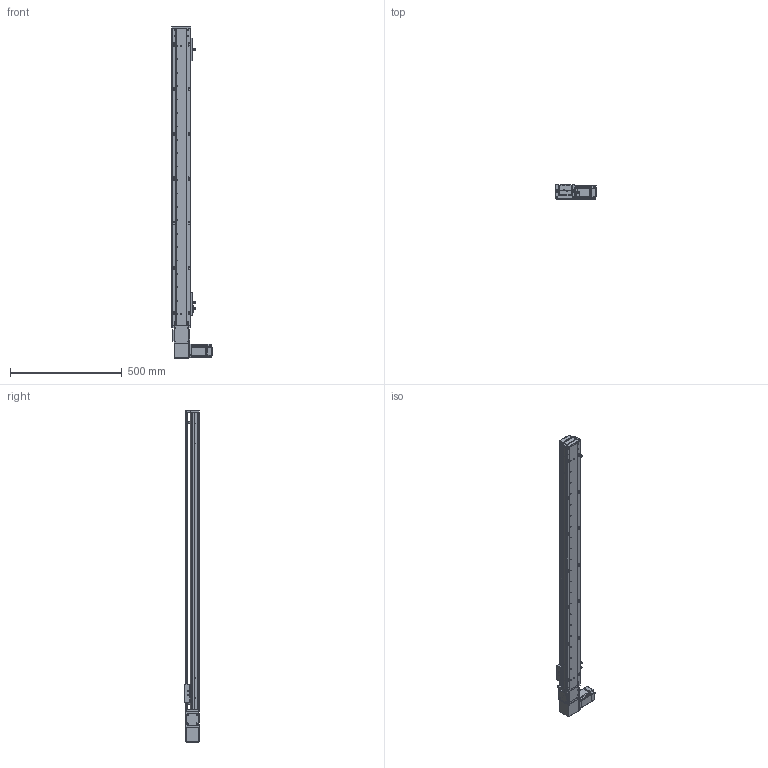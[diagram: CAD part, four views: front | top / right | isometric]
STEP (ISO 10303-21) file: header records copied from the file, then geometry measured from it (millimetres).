
FILE_DESCRIPTION (( 'STEP AP203' ), '1' );
FILE_NAME ('RY80-T-300-RK.SLDASM_1150.step', '2021-03-01T02:07:34', ( '盈信电脑' ), ( '东莞市道滘镇水果街19号' ), 'SwSTEP 2.0', 'SolidWorks 2012', '' );
FILE_SCHEMA (( 'CONFIG_CONTROL_DESIGN' ));
Length unit declared in the file: millimetre
Products named in the file (20): RY80-T肮祭湍揤輸1; RY80-T肮祭湍揤輸2; RY80-T粣創揤踡輸; RY80-T萇儂假蚾啣; RY80-T-翋肮祭謫釱; 侂狟200W萇儂; 1; 672嫖萇羲壽假蚾釱; 覜茼ん672; RY80俋离覜茼え; RY80-T-300-RK倰第菁釱_1150; RY80-T綴裔啣; RY80-T-300-RK倰第奻裔啣_1150; RY80-T肮祭謫臏賑輸; RY100-T粣創揤踡裔; RY80-T-300-RK.SLDASM_1150; RY80-T肮祭謫俋欶; 滅袉蝶18-10; RY80-T翋肮祭謫裔啣; RY80-T-M4蹟翐
Assembly tree (25 placements, depth 3):
  RY80-T-300-RK.SLDASM_1150
    RY80-T-300-RK倰第菁釱_1150
    RY80-T肮祭謫臏賑輸
    RY80-T-300-RK倰第奻裔啣_1150
    RY80-T綴裔啣
    672嫖萇羲壽假蚾釱  x2
    覜茼ん672  x3
    RY80俋离覜茼え
    侂狟200W萇儂
      1
    RY80-T-翋肮祭謫釱
    RY80-T萇儂假蚾啣
    RY80-T肮祭湍揤輸1
    RY80-T肮祭湍揤輸2
    RY80-T粣創揤踡輸
    RY80-T-M4蹟翐  x2
    RY80-T翋肮祭謫裔啣  x2
    RY80-T肮祭謫俋欶
    滅袉蝶18-10  x2
    RY100-T粣創揤踡裔
Bounding box: 180 x 65 x 1485 mm (x, y, z)
Volume: 2388077.7 mm3; surface area: 1001569 mm2
Topology: 24 solids, 24 shells, 2497 faces, 6880 edges, 4471 vertices
Faces by surface type: plane 1332, cylinder 960, cone 149, bspline 56
Entity records: 78576 total; most frequent: CARTESIAN_POINT 18965, ORIENTED_EDGE 12204, DIRECTION 11512, EDGE_CURVE 6102, VERTEX_POINT 4012, AXIS2_PLACEMENT_3D 3883, LINE 3746, VECTOR 3746
